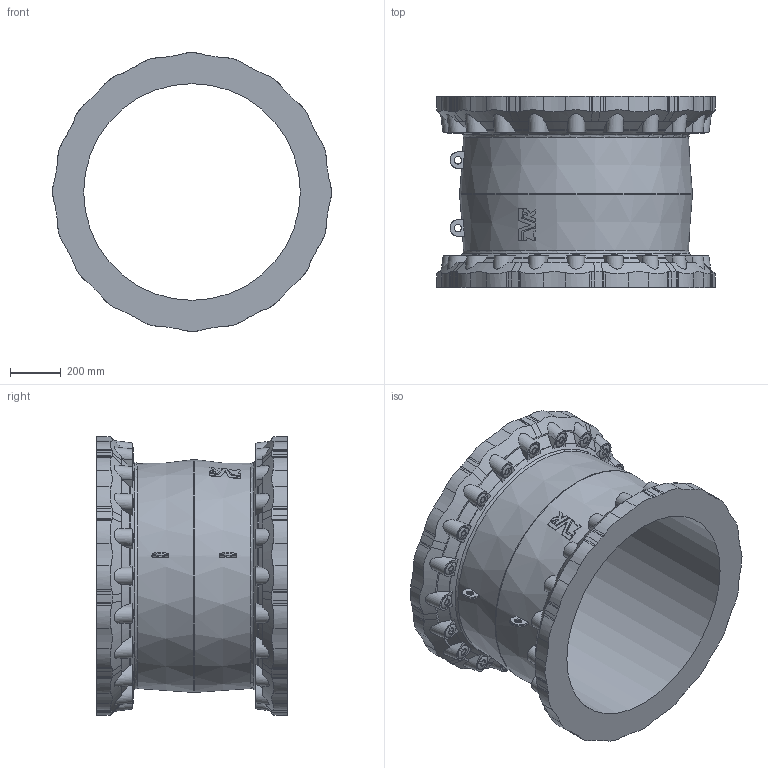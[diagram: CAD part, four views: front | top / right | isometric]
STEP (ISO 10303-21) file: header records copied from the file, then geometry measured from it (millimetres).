
FILE_DESCRIPTION (( 'STEP AP203' ), '1' );
FILE_NAME ('O_631_00_DN800_XXXX_REV01.step', '2023-12-06T10:25:22', ( '' ), ( '' ), 'SwSTEP 2.0', 'SolidWorks 2022', '' );
FILE_SCHEMA (( 'CONFIG_CONTROL_DESIGN' ));
Length unit declared in the file: millimetre
Products named in the file (1): O_631_00_DN800_XXXX_REV01
Bounding box: 1093.43 x 748.53 x 1093.43 mm (x, y, z)
Volume: 109937406.5 mm3; surface area: 5466458.8 mm2
Topology: 1 solids, 1 shells, 1075 faces, 2834 edges, 1766 vertices
Faces by surface type: cylinder 443, plane 330, torus 163, cone 99, bspline 40
Full cylindrical faces by diameter (mm): 850 x1
Entity records: 41737 total; most frequent: CARTESIAN_POINT 15764, ORIENTED_EDGE 5628, DIRECTION 5448, EDGE_CURVE 2814, AXIS2_PLACEMENT_3D 2290, VERTEX_POINT 1758, CIRCLE 1254, EDGE_LOOP 1098
